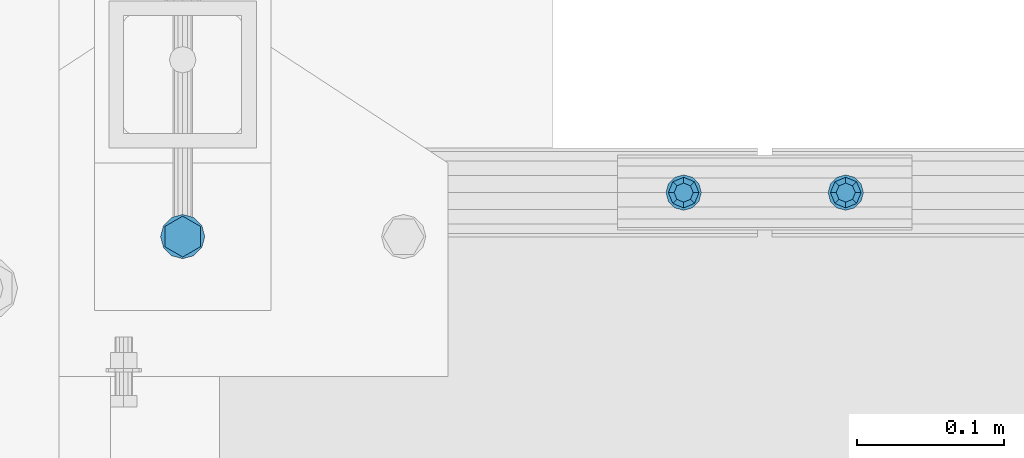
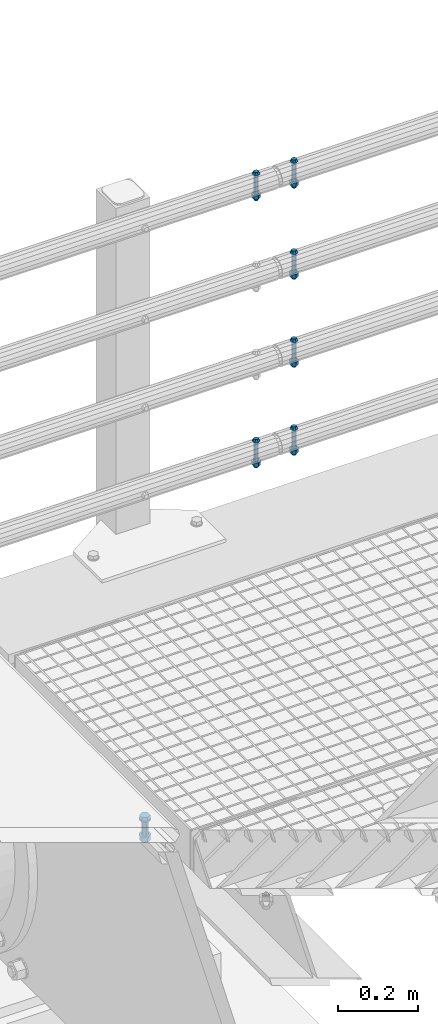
# One storey, part 75 of 1530: 7 mechanical fasteners.
"""IFC2X3 building model written with IfcOpenShell, lengths in millimetres."""

import ifcopenshell
import ifcopenshell.guid

model = None  # the IFC model being written
_history = None  # IfcOwnerHistory: only IFC2X3 demands one
_inside = {}  # id of a spatial element -> (the spatial element, [elements in it])
_under = {}  # id of a project, library or spatial element -> (it, [spatial elements below it])
_declared = {}  # id of a project -> (the project, [libraries it declares])
_typed = {}  # id of a type object -> (the type object, [elements of that type])
_made_of = {}  # id of a material, layer set ... -> (it, [elements and type objects made of it])


def new_model(schema):
    """Start an empty IFC model of exactly this schema.

    Asked for "IFC4X3", IfcOpenShell would pick the latest addendum, in which some entities
    have other attributes; the version numbers below select the first issue.
    IFC2X3 requires an IfcOwnerHistory on every rooted entity: one is made here for all.
    """
    global model, _history
    if schema == "IFC4X3":
        model = ifcopenshell.file(schema_version=(4, 3, 0, 0))
    else:
        model = ifcopenshell.file(schema=schema)
    _inside.clear()
    _under.clear()
    _declared.clear()
    _typed.clear()
    _made_of.clear()
    _history = None
    if model.schema == "IFC2X3":
        org = make("IfcOrganization", Name="unknown")
        user = make(
            "IfcPersonAndOrganization",
            ThePerson=make("IfcPerson", FamilyName="unknown"),
            TheOrganization=org,
        )
        app = make(
            "IfcApplication",
            ApplicationDeveloper=org,
            Version="unknown",
            ApplicationFullName="unknown",
            ApplicationIdentifier="unknown",
        )
        _history = make(
            "IfcOwnerHistory",
            OwningUser=user,
            OwningApplication=app,
            ChangeAction="ADDED",
            CreationDate=0,
        )
    return model


def make(cls, **values):
    """One entity of the class cls with the attributes given. An attribute that is None is left unset."""
    return model.create_entity(
        cls, **{name: value for name, value in values.items() if value is not None}
    )


def rooted(cls, **values):
    """An entity with a GlobalId (a new one), such as an element, a storey or a relation."""
    return make(cls, GlobalId=ifcopenshell.guid.new(), OwnerHistory=_history, **values)


def si_unit(unit_type, name, prefix=None):
    """IfcSIUnit, for example si_unit("LENGTHUNIT", "METRE", prefix="MILLI")."""
    return make("IfcSIUnit", UnitType=unit_type, Prefix=prefix, Name=name)


def assignment(units):
    """IfcUnitAssignment: the units of a project."""
    return None if units is None else make("IfcUnitAssignment", Units=units)


def point(xyz):
    """IfcCartesianPoint."""
    return None if xyz is None else make("IfcCartesianPoint", Coordinates=xyz)


def direction(xyz):
    """IfcDirection."""
    return None if xyz is None else make("IfcDirection", DirectionRatios=xyz)


def frame(location, z_axis=None, x_axis=None):
    """IfcAxis2Placement3D, a coordinate frame: its origin and axes. An axis left out is left unset."""
    return make(
        "IfcAxis2Placement3D",
        Location=point(location),
        Axis=direction(z_axis),
        RefDirection=direction(x_axis),
    )


def origin_with_axes():
    """The frame at (0, 0, 0) with the z axis (0, 0, 1) and the x axis (1, 0, 0) written out."""
    return frame((0.0, 0.0, 0.0), z_axis=(0.0, 0.0, 1.0), x_axis=(1.0, 0.0, 0.0))


def place(relative_to, where):
    """IfcLocalPlacement: puts the frame where relative to a parent placement (None: the world)."""
    return make(
        "IfcLocalPlacement", PlacementRelTo=relative_to, RelativePlacement=where
    )


def context(
    kind, dimensions, precision=None, world=None, true_north=None, identifier=None
):
    """IfcGeometricRepresentationContext, for example the 3D "Model" context."""
    return make(
        "IfcGeometricRepresentationContext",
        ContextIdentifier=identifier,
        ContextType=kind,
        CoordinateSpaceDimension=dimensions,
        Precision=precision,
        WorldCoordinateSystem=world,
        TrueNorth=true_north,
    )


def subcontext(parent, identifier, kind, view, scale=None):
    """IfcGeometricRepresentationSubContext, for example "Body" below "Model"."""
    return make(
        "IfcGeometricRepresentationSubContext",
        ContextIdentifier=identifier,
        ContextType=kind,
        ParentContext=parent,
        TargetScale=scale,
        TargetView=view,
    )


def project(units=None, contexts=None):
    """IfcProject with its units and contexts."""
    return rooted(
        "IfcProject",
        Name="project",
        RepresentationContexts=contexts,
        UnitsInContext=assignment(units),
    )


def spatial(cls, under=None, at=None, **own):
    """A site, building, storey or space (cls), placed at a placement, below another one or the project."""
    s = rooted(cls, ObjectPlacement=at, **own)
    if under is not None:
        _under.setdefault(under.id(), (under, []))[1].append(s)
    return s


def faces_of(points, faces, orient=None, outer=None):
    """IfcFace entities. A face is a list of loops; a loop is a list of indices into points, from 0.

    orient and outer hold one flag for each loop. By default every Orientation is true, the
    first loop of a face is its IfcFaceOuterBound and the others are IfcFaceBound.
    """
    made = []
    for i, loops in enumerate(faces):
        bounds = []
        for j, loop in enumerate(loops):
            is_outer = j == 0 if outer is None else outer[i][j]
            bounds.append(
                make(
                    "IfcFaceOuterBound" if is_outer else "IfcFaceBound",
                    Bound=make("IfcPolyLoop", Polygon=[points[k] for k in loop]),
                    Orientation=True if orient is None else orient[i][j],
                )
            )
        made.append(make("IfcFace", Bounds=bounds))
    return made


def faceted_brep(points, faces, orient=None, outer=None, voids=None):
    """IfcFacetedBrep: a solid bounded by flat faces; with voids (closed shells), ...WithVoids."""
    shared = [point(p) for p in points]
    hull = make("IfcClosedShell", CfsFaces=faces_of(shared, faces, orient, outer))
    if voids is None:
        return make("IfcFacetedBrep", Outer=hull)
    return make(
        "IfcFacetedBrepWithVoids",
        Outer=hull,
        Voids=[
            make(cls, CfsFaces=faces_of(shared, fs, o, b)) for cls, fs, o, b in voids
        ],
    )


def shape(context_of_items, identifier, shape_type, items):
    """IfcShapeRepresentation: the items that make up one representation, for example the "Body"."""
    return make(
        "IfcShapeRepresentation",
        ContextOfItems=context_of_items,
        RepresentationIdentifier=identifier,
        RepresentationType=shape_type,
        Items=items,
    )


def source(mapping_origin, context_of_items, identifier, shape_type, items):
    """IfcRepresentationMap: a shape defined once, which mapped items show again and again."""
    return make(
        "IfcRepresentationMap",
        MappingOrigin=mapping_origin,
        MappedRepresentation=shape(context_of_items, identifier, shape_type, items),
    )


def transform(
    local_origin,
    x_axis=None,
    y_axis=None,
    z_axis=None,
    scale=None,
    scale2=None,
    scale3=None,
    uniform=True,
):
    """IfcCartesianTransformationOperator3D, or its non-uniform kind. x_axis, y_axis, z_axis: its Axis1, 2, 3."""
    if uniform:
        return make(
            "IfcCartesianTransformationOperator3D",
            Axis1=direction(x_axis),
            Axis2=direction(y_axis),
            LocalOrigin=point(local_origin),
            Scale=scale,
            Axis3=direction(z_axis),
        )
    return make(
        "IfcCartesianTransformationOperator3DnonUniform",
        Axis1=direction(x_axis),
        Axis2=direction(y_axis),
        LocalOrigin=point(local_origin),
        Scale=scale,
        Axis3=direction(z_axis),
        Scale2=scale2,
        Scale3=scale3,
    )


def mapped(mapping_source, mapping_target):
    """IfcMappedItem: shows the shape of a source again, moved by a transform."""
    return make(
        "IfcMappedItem", MappingSource=mapping_source, MappingTarget=mapping_target
    )


def material(Name=None, Category=None):
    """IfcMaterial."""
    return make("IfcMaterial", Name=Name, Category=Category)


def made_of(thing, what):
    """Note that an element or type object is made of a material, layer set ...; save() writes the relation."""
    if what is not None:
        _made_of.setdefault(what.id(), (what, []))[1].append(thing)
    return thing


def type_object(cls, material=None, **own):
    """A type object (cls), such as IfcWallType, which elements share."""
    return made_of(rooted(cls, **own), material)


def element(
    cls,
    number,
    at=None,
    inside=None,
    cuts=None,
    type_object=None,
    material=None,
    context=None,
    identifier="Body",
    shape_type=None,
    held_by="IfcProductDefinitionShape",
    body=None,
    shapes=None,
    **own,
):
    """One element of the class cls, such as IfcWall. Its Tag is "e" and its number.

    at: its placement. inside: the storey or other place that contains it. cuts: it is an
    opening in that element (IfcRelVoidsElement). A single representation is given by context,
    identifier, shape_type and body (its items); several are given by shapes. held_by: the class
    of the entity that holds the representations. save() writes the other relations.
    """
    e = rooted(cls, Tag="e%d" % number, ObjectPlacement=at, **own)
    if body is not None:
        shapes = [shape(context, identifier, shape_type, body)]
    if shapes is not None:
        e.Representation = make(held_by, Representations=shapes)
    if inside is not None:
        _inside.setdefault(inside.id(), (inside, []))[1].append(e)
    if cuts is not None:
        rooted(
            "IfcRelVoidsElement", RelatingBuildingElement=cuts, RelatedOpeningElement=e
        )
    if type_object is not None:
        _typed.setdefault(type_object.id(), (type_object, []))[1].append(e)
    return made_of(e, material)


def aggregate(whole, parts):
    """IfcRelAggregates: a whole, such as a stair, and the parts it consists of."""
    return rooted("IfcRelAggregates", RelatingObject=whole, RelatedObjects=parts)


def save(model, path):
    """Write the relations noted so far, then the file.

    IfcRelAggregates (storeys below a building ...), IfcRelContainedInSpatialStructure (elements
    in a storey), IfcRelDefinesByType, IfcRelAssociatesMaterial and IfcRelDeclares: one each for
    every whole, place, type object, material and project.
    """
    for whole, parts in _under.values():
        aggregate(whole, parts)
    for where, things in _inside.values():
        rooted(
            "IfcRelContainedInSpatialStructure",
            RelatedElements=things,
            RelatingStructure=where,
        )
    for kind, things in _typed.values():
        rooted("IfcRelDefinesByType", RelatedObjects=things, RelatingType=kind)
    for what, things in _made_of.values():
        rooted("IfcRelAssociatesMaterial", RelatedObjects=things, RelatingMaterial=what)
    for by, libraries in _declared.values():
        rooted("IfcRelDeclares", RelatingContext=by, RelatedDefinitions=libraries)
    model.write(path)


model = new_model("IFC2X3")

# Units and contexts
model_context = context("Model", 3, precision=1e-05, world=origin_with_axes())
body_context = subcontext(model_context, "Body", "Model", "MODEL_VIEW")
ifc_project = project(units=[si_unit("LENGTHUNIT", "METRE", prefix="MILLI"), si_unit("AREAUNIT", "SQUARE_METRE"), si_unit("VOLUMEUNIT", "CUBIC_METRE"), si_unit("MASSUNIT", "GRAM", prefix="KILO"), si_unit("TIMEUNIT", "SECOND"), si_unit("PLANEANGLEUNIT", "RADIAN"), si_unit("SOLIDANGLEUNIT", "STERADIAN"), si_unit("THERMODYNAMICTEMPERATUREUNIT", "DEGREE_CELSIUS"), si_unit("LUMINOUSINTENSITYUNIT", "LUMEN")], contexts=[model_context])

# Site, building, storey
site_placement = place(None, origin_with_axes())
site = spatial("IfcSite", under=ifc_project, at=site_placement, Name="Brattvåg", CompositionType="ELEMENT")
building_placement = place(site_placement, origin_with_axes())
building = spatial("IfcBuilding", under=site, at=building_placement, Name="Undefined", CompositionType="ELEMENT")
storey_placement = place(building_placement, origin_with_axes())
storey = spatial("IfcBuildingStorey", under=building, at=storey_placement, Name="Undefined", CompositionType="ELEMENT", Elevation=0.0)

# Mechanical fasteners
ifc_material = material(Name="8")
mechanical_fastener_type = type_object("IfcMechanicalFastenerType", Name="Bolt assembly")
shared_shape_1 = source(origin_with_axes(), body_context, "Body", "Brep", [
    faceted_brep([(6.49435320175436, -7.50000000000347, 0.0), (4.59220118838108, -7.50000000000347, 4.59220118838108), (3.97664443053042e-16, -7.50000000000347, 6.49435320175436), (-4.59220118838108, -7.50000000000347, 4.59220118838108), (-6.49435320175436, -7.50000000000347, 7.95328886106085e-16), (-4.59220118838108, -7.50000000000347, -4.59220118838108), (-1.19299332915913e-15, -7.50000000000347, -6.49435320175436), (4.59220118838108, -7.50000000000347, -4.59220118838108), (7.34846922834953, -3.46744855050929e-12, -7.34846922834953), (-1.90903542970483e-15, -3.46744855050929e-12, -10.3923048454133), (-7.34846922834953, -3.46744855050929e-12, -7.34846922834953), (-10.3923048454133, 3.46808519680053e-07, 1.27269028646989e-15), (-7.34846922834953, -3.46744855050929e-12, 7.34846922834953), (6.36345143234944e-16, -3.46744855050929e-12, 10.3923048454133), (7.34846922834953, -3.46744855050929e-12, 7.34846922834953), (10.3923048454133, 3.46808519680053e-07, 0.0), (6.0, 3.46808519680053e-07, 0.0), (5.19615242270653, 3.46808519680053e-07, 3.00000000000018), (2.99999999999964, 3.46808519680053e-07, 5.19615242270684), (-6.21801588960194e-13, 3.46808519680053e-07, 6.0), (-3.00000000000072, 3.46808519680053e-07, 5.19615242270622), (-5.19615242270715, 3.46808519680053e-07, 2.9999999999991), (-6.0, 3.46808519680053e-07, -1.24360317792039e-12), (-5.19615242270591, 3.46808519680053e-07, -3.00000000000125), (-2.99999999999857, 3.46808519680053e-07, -5.19615242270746), (1.85874342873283e-12, 3.46808519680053e-07, -6.0), (3.00000000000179, 3.46808519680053e-07, -5.1961524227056), (5.19615242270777, 3.46808519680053e-07, -2.99999999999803), (5.19615242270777, 79.9999999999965, -2.99999999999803), (3.00000000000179, 79.9999999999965, -5.1961524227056), (1.85874342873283e-12, 79.9999999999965, -6.0), (-2.99999999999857, 79.9999999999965, -5.19615242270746), (-5.19615242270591, 79.9999999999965, -3.00000000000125), (-6.0, 79.9999999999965, -1.24360317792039e-12), (-5.19615242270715, 79.9999999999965, 2.9999999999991), (-3.00000000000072, 79.9999999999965, 5.19615242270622), (-6.21801588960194e-13, 79.9999999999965, 6.0), (2.99999999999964, 79.9999999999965, 5.19615242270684), (5.19615242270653, 79.9999999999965, 3.00000000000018), (6.0, 79.9999999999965, 0.0), (12.0, 60.2988956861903, 0.0), (10.3923048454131, 60.2988956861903, 6.00000000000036), (5.99999999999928, 60.2988956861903, 10.3923048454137), (-1.24360317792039e-12, 60.2988956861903, 12.0), (-6.00000000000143, 60.2988956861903, 10.3923048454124), (-10.3923048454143, 60.2988956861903, 5.99999999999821), (-12.0, 60.2988956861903, -2.48720635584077e-12), (-10.3923048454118, 60.2988956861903, -6.00000000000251), (-5.99999999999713, 60.2988956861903, -10.3923048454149), (3.71748685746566e-12, 60.2988956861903, -12.0), (6.00000000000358, 60.2988956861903, -10.3923048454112), (10.3923048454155, 60.2988956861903, -5.99999999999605), (10.3923048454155, 62.7988956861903, -5.99999999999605), (6.00000000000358, 62.7988956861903, -10.3923048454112), (3.71748685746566e-12, 62.7988956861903, -12.0), (-5.99999999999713, 62.7988956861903, -10.3923048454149), (-10.3923048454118, 62.7988956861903, -6.00000000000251), (-12.0, 62.7988956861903, -2.48720635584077e-12), (-10.3923048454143, 62.7988956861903, 5.99999999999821), (-6.00000000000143, 62.7988956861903, 10.3923048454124), (-1.24360317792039e-12, 62.7988956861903, 12.0), (5.99999999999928, 62.7988956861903, 10.3923048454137), (10.3923048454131, 62.7988956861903, 6.00000000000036), (12.0, 62.7988956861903, 0.0), (10.9696551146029, 62.7988956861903, 0.0), (5.48482755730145, 62.7988956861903, 9.5), (-5.48482755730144, 62.7988956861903, 9.5), (-10.9696551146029, 62.7988956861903, 1.34339530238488e-15), (-5.48482755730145, 62.7988956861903, -9.5), (5.48482755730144, 62.7988956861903, -9.5), (5.48482755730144, 73.5988958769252, -9.5), (-5.48482755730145, 73.5988958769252, -9.5), (-10.9696551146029, 73.5988958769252, 1.34339530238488e-15), (-5.48482755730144, 73.5988958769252, 9.5), (5.48482755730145, 73.5988958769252, 9.5), (10.9696551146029, 73.5988958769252, 0.0)], [[[0, 1, 2, 3, 4, 5, 6, 7]], [[8, 9, 10, 11, 12, 13, 14, 15]], [[0, 15, 14, 1]], [[1, 14, 13, 2]], [[2, 13, 12, 3]], [[3, 12, 11, 4]], [[4, 11, 10, 5]], [[5, 10, 9, 6]], [[6, 9, 8, 7]], [[7, 8, 15, 0]], [[16, 17, 18, 19, 20, 21, 22, 23, 24, 25, 26, 27]], [[28, 29, 30, 31, 32, 33, 34, 35, 36, 37, 38, 39]], [[16, 39, 38, 17]], [[17, 38, 37, 18]], [[18, 37, 36, 19]], [[19, 36, 35, 20]], [[20, 35, 34, 21]], [[21, 34, 33, 22]], [[22, 33, 32, 23]], [[23, 32, 31, 24]], [[24, 31, 30, 25]], [[25, 30, 29, 26]], [[26, 29, 28, 27]], [[27, 28, 39, 16]], [[40, 41, 42, 43, 44, 45, 46, 47, 48, 49, 50, 51]], [[52, 53, 54, 55, 56, 57, 58, 59, 60, 61, 62, 63]], [[40, 63, 62, 41]], [[41, 62, 61, 42]], [[42, 61, 60, 43]], [[43, 60, 59, 44]], [[44, 59, 58, 45]], [[45, 58, 57, 46]], [[46, 57, 56, 47]], [[47, 56, 55, 48]], [[48, 55, 54, 49]], [[49, 54, 53, 50]], [[50, 53, 52, 51]], [[51, 52, 63, 40]], [[64, 65, 66, 67, 68, 69]], [[70, 71, 72, 73, 74, 75]], [[64, 75, 74, 65]], [[65, 74, 73, 66]], [[66, 73, 72, 67]], [[67, 72, 71, 68]], [[68, 71, 70, 69]], [[69, 70, 75, 64]]]),
    faceted_brep([(6.5, 0.100000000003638, 0.0), (5.62916512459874, 0.100000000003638, 3.25000000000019), (3.24999999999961, 0.100000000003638, 5.62916512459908), (-6.7361838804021e-13, 0.100000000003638, 6.5), (-3.25000000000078, 0.100000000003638, 5.6291651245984), (-5.62916512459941, 0.100000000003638, 3.24999999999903), (-6.5, 0.100000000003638, -1.34723677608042e-12), (-5.62916512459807, 0.100000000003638, -3.25000000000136), (-3.24999999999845, 0.100000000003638, -5.62916512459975), (2.01363871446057e-12, 0.100000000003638, -6.5), (3.25000000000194, 0.100000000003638, -5.62916512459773), (5.62916512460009, 0.100000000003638, -3.24999999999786), (5.62916512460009, 60.3988956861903, -3.24999999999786), (3.25000000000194, 60.3988956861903, -5.62916512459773), (2.01363871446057e-12, 60.3988956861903, -6.5), (-3.24999999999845, 60.3988956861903, -5.62916512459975), (-5.62916512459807, 60.3988956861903, -3.25000000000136), (-6.5, 60.3988956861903, -1.34723677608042e-12), (-5.62916512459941, 60.3988956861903, 3.24999999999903), (-3.25000000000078, 60.3988956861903, 5.6291651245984), (-6.7361838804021e-13, 60.3988956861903, 6.5), (3.24999999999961, 60.3988956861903, 5.62916512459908), (5.62916512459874, 60.3988956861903, 3.25000000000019), (6.5, 60.3988956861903, 0.0), (6.5, 4.25026510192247, 0.0), (5.62916512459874, 4.25026510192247, 3.25000000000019), (3.24999999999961, 4.25026510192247, 5.62916512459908), (-6.7361838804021e-13, 4.25026510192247, 6.5), (-3.25000000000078, 4.25026510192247, 5.6291651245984), (-5.62916512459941, 4.25026510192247, 3.24999999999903), (-6.5, 4.25026510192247, -1.34723677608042e-12), (-5.62916512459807, 4.25026510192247, -3.25000000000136), (-3.24999999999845, 4.25026510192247, -5.62916512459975), (2.01363871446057e-12, 4.25026510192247, -6.5), (3.25000000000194, 4.25026510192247, -5.62916512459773), (5.62916512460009, 4.25026510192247, -3.24999999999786), (5.62916512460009, 55.3491717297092, -3.24999999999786), (3.25000000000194, 55.3491717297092, -5.62916512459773), (2.01363871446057e-12, 55.3491717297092, -6.5), (-3.24999999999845, 55.3491717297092, -5.62916512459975), (-5.62916512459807, 55.3491717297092, -3.25000000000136), (-6.5, 55.3491717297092, -1.34723677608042e-12), (-5.62916512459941, 55.3491717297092, 3.24999999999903), (-3.25000000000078, 55.3491717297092, 5.6291651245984), (-6.7361838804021e-13, 55.3491717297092, 6.5), (3.24999999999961, 55.3491717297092, 5.62916512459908), (5.62916512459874, 55.3491717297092, 3.25000000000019), (6.5, 55.3491717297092, 0.0)], [[[0, 1, 2, 3, 4, 5, 6, 7, 8, 9, 10, 11]], [[12, 13, 14, 15, 16, 17, 18, 19, 20, 21, 22, 23]], [[0, 23, 22, 1]], [[1, 22, 21, 2]], [[2, 21, 20, 3]], [[3, 20, 19, 4]], [[4, 19, 18, 5]], [[5, 18, 17, 6]], [[6, 17, 16, 7]], [[7, 16, 15, 8]], [[8, 15, 14, 9]], [[9, 14, 13, 10]], [[10, 13, 12, 11]], [[11, 12, 23, 0]], [[24, 25, 26, 27, 28, 29, 30, 31, 32, 33, 34, 35]], [[36, 37, 38, 39, 40, 41, 42, 43, 44, 45, 46, 47]], [[24, 47, 46, 25]], [[25, 46, 45, 26]], [[26, 45, 44, 27]], [[27, 44, 43, 28]], [[28, 43, 42, 29]], [[29, 42, 41, 30]], [[30, 41, 40, 31]], [[31, 40, 39, 32]], [[32, 39, 38, 33]], [[33, 38, 37, 34]], [[34, 37, 36, 35]], [[35, 36, 47, 24]]]),
])
for number, where, z_axis, x_axis, name in (
    (1, (999.999862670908, 9129.84988021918, 179.7000579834), (1.0, 0.0, 0.0), (0.0, -0.999999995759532, -9.20919999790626e-05), "Bolt assembly"),
    (2, (999.999862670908, 9129.84988021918, 449.7000579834), (1.0, 0.0, 0.0), (0.0, -0.999999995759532, -9.20919999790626e-05), "Bolt assembly"),
    (3, (999.999862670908, 9129.84988021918, 719.7000579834), (1.0, 0.0, 0.0), (0.0, -0.999999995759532, -9.20919999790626e-05), "Bolt assembly"),
    (4, (999.999862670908, 9129.84988021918, 999.7000579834), (1.0, 0.0, 0.0), (0.0, -0.999999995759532, -9.20919999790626e-05), "Bolt assembly"),
):
    element("IfcMechanicalFastener", number, at=place(storey_placement, frame(where, z_axis=z_axis, x_axis=x_axis)), inside=storey, type_object=mechanical_fastener_type, material=ifc_material, Name=name, NominalDiameter=12.0, NominalLength=80.0, context=body_context, shape_type="MappedRepresentation", body=[
        mapped(shared_shape_1, transform((0.0, 0.0, 0.0))),
    ])
shared_shape_2 = source(origin_with_axes(), body_context, "Body", "Brep", [
    faceted_brep([(6.49435320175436, -7.49993057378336, 0.0), (4.59220118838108, -7.49993057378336, 4.59220118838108), (3.97664443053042e-16, -7.49993057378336, 6.49435320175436), (-4.59220118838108, -7.49993057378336, 4.59220118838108), (-6.49435320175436, -7.49993057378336, 7.95328886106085e-16), (-4.59220118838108, -7.49993057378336, -4.59220118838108), (-1.19299332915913e-15, -7.49993057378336, -6.49435320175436), (4.59220118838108, -7.49993057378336, -4.59220118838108), (7.34846922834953, 6.94262166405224e-05, -7.34846922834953), (-1.90903542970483e-15, 6.94262166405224e-05, -10.3923048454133), (-7.34846922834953, 6.94262166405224e-05, -7.34846922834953), (-10.3923048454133, 6.94262166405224e-05, 1.27269028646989e-15), (-7.34846922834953, 6.94262166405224e-05, 7.34846922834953), (6.36345143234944e-16, 6.94262166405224e-05, 10.3923048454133), (7.34846922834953, 6.94262166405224e-05, 7.34846922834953), (10.3923048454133, 6.94262166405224e-05, 0.0), (6.0, 6.94262166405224e-05, 0.0), (5.19615242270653, 6.94262166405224e-05, 3.00000000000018), (2.99999999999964, 6.94262166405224e-05, 5.19615242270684), (-6.21801588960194e-13, 6.94262166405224e-05, 6.0), (-3.00000000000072, 6.94262166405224e-05, 5.19615242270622), (-5.19615242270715, 6.94262166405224e-05, 2.9999999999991), (-6.0, 6.94262166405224e-05, -1.24360317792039e-12), (-5.19615242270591, 6.94262166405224e-05, -3.00000000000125), (-2.99999999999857, 6.94262166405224e-05, -5.19615242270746), (1.85874342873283e-12, 6.94262166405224e-05, -6.0), (3.00000000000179, 6.94262166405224e-05, -5.1961524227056), (5.19615242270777, 6.94262166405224e-05, -2.99999999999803), (5.19615242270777, 80.0000694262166, -2.99999999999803), (3.00000000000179, 80.0000694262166, -5.1961524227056), (1.85874342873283e-12, 80.0000694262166, -6.0), (-2.99999999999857, 80.0000694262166, -5.19615242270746), (-5.19615242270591, 80.0000694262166, -3.00000000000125), (-6.0, 80.0000694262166, -1.24360317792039e-12), (-5.19615242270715, 80.0000694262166, 2.9999999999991), (-3.00000000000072, 80.0000694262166, 5.19615242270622), (-6.21801588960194e-13, 80.0000694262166, 6.0), (2.99999999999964, 80.0000694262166, 5.19615242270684), (5.19615242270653, 80.0000694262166, 3.00000000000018), (6.0, 80.0000694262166, 0.0), (12.0, 60.2989651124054, 0.0), (10.3923048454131, 60.2989651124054, 6.00000000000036), (5.99999999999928, 60.2989651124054, 10.3923048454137), (-1.24360317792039e-12, 60.2989651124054, 12.0), (-6.00000000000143, 60.2989651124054, 10.3923048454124), (-10.3923048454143, 60.2989651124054, 5.99999999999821), (-12.0, 60.2989651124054, -2.48720635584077e-12), (-10.3923048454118, 60.2989651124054, -6.00000000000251), (-5.99999999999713, 60.2989651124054, -10.3923048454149), (3.71748685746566e-12, 60.2989651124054, -12.0), (6.00000000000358, 60.2989651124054, -10.3923048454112), (10.3923048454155, 60.2989651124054, -5.99999999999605), (10.3923048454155, 62.7989651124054, -5.99999999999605), (6.00000000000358, 62.7989651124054, -10.3923048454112), (3.71748685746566e-12, 62.7989651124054, -12.0), (-5.99999999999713, 62.7989651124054, -10.3923048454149), (-10.3923048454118, 62.7989651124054, -6.00000000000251), (-12.0, 62.7989651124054, -2.48720635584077e-12), (-10.3923048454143, 62.7989651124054, 5.99999999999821), (-6.00000000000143, 62.7989651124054, 10.3923048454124), (-1.24360317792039e-12, 62.7989651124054, 12.0), (5.99999999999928, 62.7989651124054, 10.3923048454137), (10.3923048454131, 62.7989651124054, 6.00000000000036), (12.0, 62.7989651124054, 0.0), (10.9696551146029, 62.7989651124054, 0.0), (5.48482755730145, 62.7989651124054, 9.5), (-5.48482755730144, 62.7989651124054, 9.5), (-10.9696551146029, 62.7989651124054, 1.34339530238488e-15), (-5.48482755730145, 62.7989651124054, -9.5), (5.48482755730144, 62.7989651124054, -9.5), (5.48482755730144, 73.5989653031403, -9.5), (-5.48482755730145, 73.5989653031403, -9.5), (-10.9696551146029, 73.5989653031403, 1.34339530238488e-15), (-5.48482755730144, 73.5989653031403, 9.5), (5.48482755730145, 73.5989653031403, 9.5), (10.9696551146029, 73.5989653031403, 0.0)], [[[0, 1, 2, 3, 4, 5, 6, 7]], [[8, 9, 10, 11, 12, 13, 14, 15]], [[0, 15, 14, 1]], [[1, 14, 13, 2]], [[2, 13, 12, 3]], [[3, 12, 11, 4]], [[4, 11, 10, 5]], [[5, 10, 9, 6]], [[6, 9, 8, 7]], [[7, 8, 15, 0]], [[16, 17, 18, 19, 20, 21, 22, 23, 24, 25, 26, 27]], [[28, 29, 30, 31, 32, 33, 34, 35, 36, 37, 38, 39]], [[16, 39, 38, 17]], [[17, 38, 37, 18]], [[18, 37, 36, 19]], [[19, 36, 35, 20]], [[20, 35, 34, 21]], [[21, 34, 33, 22]], [[22, 33, 32, 23]], [[23, 32, 31, 24]], [[24, 31, 30, 25]], [[25, 30, 29, 26]], [[26, 29, 28, 27]], [[27, 28, 39, 16]], [[40, 41, 42, 43, 44, 45, 46, 47, 48, 49, 50, 51]], [[52, 53, 54, 55, 56, 57, 58, 59, 60, 61, 62, 63]], [[40, 63, 62, 41]], [[41, 62, 61, 42]], [[42, 61, 60, 43]], [[43, 60, 59, 44]], [[44, 59, 58, 45]], [[45, 58, 57, 46]], [[46, 57, 56, 47]], [[47, 56, 55, 48]], [[48, 55, 54, 49]], [[49, 54, 53, 50]], [[50, 53, 52, 51]], [[51, 52, 63, 40]], [[64, 65, 66, 67, 68, 69]], [[70, 71, 72, 73, 74, 75]], [[64, 75, 74, 65]], [[65, 74, 73, 66]], [[66, 73, 72, 67]], [[67, 72, 71, 68]], [[68, 71, 70, 69]], [[69, 70, 75, 64]]]),
    faceted_brep([(6.5, 0.100069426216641, 0.0), (5.62916512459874, 0.100069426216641, 3.25000000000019), (3.24999999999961, 0.100069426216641, 5.62916512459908), (-6.7361838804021e-13, 0.100069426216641, 6.5), (-3.25000000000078, 0.100069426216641, 5.6291651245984), (-5.62916512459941, 0.100069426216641, 3.24999999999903), (-6.5, 0.100069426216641, -1.34723677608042e-12), (-5.62916512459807, 0.100069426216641, -3.25000000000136), (-3.24999999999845, 0.100069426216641, -5.62916512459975), (2.01363871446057e-12, 0.100069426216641, -6.5), (3.25000000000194, 0.100069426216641, -5.62916512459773), (5.62916512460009, 0.100069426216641, -3.24999999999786), (5.62916512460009, 60.3989651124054, -3.24999999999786), (3.25000000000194, 60.3989651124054, -5.62916512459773), (2.01363871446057e-12, 60.3989651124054, -6.5), (-3.24999999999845, 60.3989651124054, -5.62916512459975), (-5.62916512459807, 60.3989651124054, -3.25000000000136), (-6.5, 60.3989651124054, -1.34723677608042e-12), (-5.62916512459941, 60.3989651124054, 3.24999999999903), (-3.25000000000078, 60.3989651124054, 5.6291651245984), (-6.7361838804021e-13, 60.3989651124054, 6.5), (3.24999999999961, 60.3989651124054, 5.62916512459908), (5.62916512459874, 60.3989651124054, 3.25000000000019), (6.5, 60.3989651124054, 0.0), (6.5, 4.25026510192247, 0.0), (5.62916512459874, 4.25026510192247, 3.25000000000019), (3.24999999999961, 4.25026510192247, 5.62916512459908), (-6.7361838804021e-13, 4.25026510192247, 6.5), (-3.25000000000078, 4.25026510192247, 5.6291651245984), (-5.62916512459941, 4.25026510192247, 3.24999999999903), (-6.5, 4.25026510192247, -1.34723677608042e-12), (-5.62916512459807, 4.25026510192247, -3.25000000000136), (-3.24999999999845, 4.25026510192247, -5.62916512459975), (2.01363871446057e-12, 4.25026510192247, -6.5), (3.25000000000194, 4.25026510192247, -5.62916512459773), (5.62916512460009, 4.25026510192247, -3.24999999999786), (5.62916512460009, 55.3491717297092, -3.24999999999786), (3.25000000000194, 55.3491717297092, -5.62916512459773), (2.01363871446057e-12, 55.3491717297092, -6.5), (-3.24999999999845, 55.3491717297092, -5.62916512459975), (-5.62916512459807, 55.3491717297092, -3.25000000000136), (-6.5, 55.3491717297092, -1.34723677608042e-12), (-5.62916512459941, 55.3491717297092, 3.24999999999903), (-3.25000000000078, 55.3491717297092, 5.6291651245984), (-6.7361838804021e-13, 55.3491717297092, 6.5), (3.24999999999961, 55.3491717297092, 5.62916512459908), (5.62916512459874, 55.3491717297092, 3.25000000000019), (6.5, 55.3491717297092, 0.0)], [[[0, 1, 2, 3, 4, 5, 6, 7, 8, 9, 10, 11]], [[12, 13, 14, 15, 16, 17, 18, 19, 20, 21, 22, 23]], [[0, 23, 22, 1]], [[1, 22, 21, 2]], [[2, 21, 20, 3]], [[3, 20, 19, 4]], [[4, 19, 18, 5]], [[5, 18, 17, 6]], [[6, 17, 16, 7]], [[7, 16, 15, 8]], [[8, 15, 14, 9]], [[9, 14, 13, 10]], [[10, 13, 12, 11]], [[11, 12, 23, 0]], [[24, 25, 26, 27, 28, 29, 30, 31, 32, 33, 34, 35]], [[36, 37, 38, 39, 40, 41, 42, 43, 44, 45, 46, 47]], [[24, 47, 46, 25]], [[25, 46, 45, 26]], [[26, 45, 44, 27]], [[27, 44, 43, 28]], [[28, 43, 42, 29]], [[29, 42, 41, 30]], [[30, 41, 40, 31]], [[31, 40, 39, 32]], [[32, 39, 38, 33]], [[33, 38, 37, 34]], [[34, 37, 36, 35]], [[35, 36, 47, 24]]]),
])
for number, where, z_axis, x_axis, name in (
    (5, (890.000137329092, 9129.84988021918, 179.7000579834), (1.0, 0.0, 0.0), (0.0, -0.999999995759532, -9.20919999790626e-05), "Bolt assembly"),
    (6, (890.000137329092, 9129.84988021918, 999.7000579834), (1.0, 0.0, 0.0), (0.0, -0.999999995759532, -9.20919999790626e-05), "Bolt assembly"),
):
    element("IfcMechanicalFastener", number, at=place(storey_placement, frame(where, z_axis=z_axis, x_axis=x_axis)), inside=storey, type_object=mechanical_fastener_type, material=ifc_material, Name=name, NominalDiameter=12.0, NominalLength=80.0, context=body_context, shape_type="MappedRepresentation", body=[
        mapped(shared_shape_2, transform((0.0, 0.0, 0.0))),
    ])
shared_shape_3 = source(origin_with_axes(), body_context, "Body", "Brep", [
    faceted_brep([(13.856406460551, -12.9998916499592, 0.0), (6.92820323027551, -12.9998916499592, 12.0), (-6.92820323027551, -12.9998916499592, 12.0), (-13.856406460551, -12.9998916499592, 1.69692038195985e-15), (-6.92820323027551, -12.9998916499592, -12.0), (6.9282032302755, -12.9998916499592, -12.0), (6.9282032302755, -2.99989164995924, -12.0), (-6.92820323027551, -2.99989164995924, -12.0), (-13.856406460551, -2.99989164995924, 1.69692038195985e-15), (-6.92820323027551, -2.99989164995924, 12.0), (6.92820323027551, -2.99989164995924, 12.0), (13.856406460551, -2.99989164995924, 0.0), (8.0, -2.99989164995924, 0.0), (6.92820323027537, -2.99989164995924, 4.00000000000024), (3.99999999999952, -2.99989164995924, 6.92820323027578), (-8.29068785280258e-13, -2.99989164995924, 8.0), (-4.00000000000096, -2.99989164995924, 6.92820323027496), (-6.9282032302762, -2.99989164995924, 3.99999999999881), (-8.0, -2.99989164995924, -1.65813757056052e-12), (-6.92820323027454, -2.99989164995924, -4.00000000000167), (-3.99999999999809, -2.99989164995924, -6.92820323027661), (2.47832457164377e-12, -2.99989164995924, -8.0), (4.00000000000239, -2.99989164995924, -6.92820323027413), (6.92820323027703, -2.99989164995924, -3.99999999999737), (6.92820323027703, 67.0001083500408, -3.99999999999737), (4.00000000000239, 67.0001083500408, -6.92820323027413), (2.47832457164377e-12, 67.0001083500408, -8.0), (-3.99999999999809, 67.0001083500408, -6.92820323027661), (-6.92820323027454, 67.0001083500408, -4.00000000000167), (-8.0, 67.0001083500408, -1.65813757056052e-12), (-6.9282032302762, 67.0001083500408, 3.99999999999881), (-4.00000000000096, 67.0001083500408, 6.92820323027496), (-8.29068785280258e-13, 67.0001083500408, 8.0), (3.99999999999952, 67.0001083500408, 6.92820323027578), (6.92820323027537, 67.0001083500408, 4.00000000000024), (8.0, 67.0001083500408, 0.0), (15.0, -2.99989164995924, 0.0), (12.9903810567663, -2.99989164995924, 7.50000000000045), (7.4999999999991, -2.99989164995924, 12.9903810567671), (-1.55450397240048e-12, -2.99989164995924, 15.0), (-7.50000000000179, -2.99989164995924, 12.9903810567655), (-12.9903810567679, -2.99989164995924, 7.49999999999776), (-15.0, -2.99989164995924, -3.10900794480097e-12), (-12.9903810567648, -2.99989164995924, -7.50000000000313), (-7.49999999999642, -2.99989164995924, -12.9903810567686), (4.64685857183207e-12, -2.99989164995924, -15.0), (7.50000000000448, -2.99989164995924, -12.990381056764), (12.9903810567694, -2.99989164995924, -7.49999999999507), (12.9903810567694, 0.000108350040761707, -7.49999999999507), (7.50000000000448, 0.000108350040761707, -12.990381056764), (4.64685857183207e-12, 0.000108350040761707, -15.0), (-7.49999999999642, 0.000108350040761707, -12.9903810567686), (-12.9903810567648, 0.000108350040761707, -7.50000000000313), (-15.0, 0.000108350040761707, -3.10900794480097e-12), (-12.9903810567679, 0.000108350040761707, 7.49999999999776), (-7.50000000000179, 0.000108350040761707, 12.9903810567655), (-1.55450397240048e-12, 0.000108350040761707, 15.0), (7.4999999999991, 0.000108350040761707, 12.9903810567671), (12.9903810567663, 0.000108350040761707, 7.50000000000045), (15.0, 0.000108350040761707, 0.0), (15.0, 45.0001982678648, 0.0), (12.9903810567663, 45.0001982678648, 7.50000000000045), (7.4999999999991, 45.0001982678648, 12.9903810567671), (-1.55450397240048e-12, 45.0001982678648, 15.0), (-7.50000000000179, 45.0001982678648, 12.9903810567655), (-12.9903810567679, 45.0001982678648, 7.49999999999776), (-15.0, 45.0001982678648, -3.10900794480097e-12), (-12.9903810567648, 45.0001982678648, -7.50000000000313), (-7.49999999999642, 45.0001982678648, -12.9903810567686), (4.64685857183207e-12, 45.0001982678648, -15.0), (7.50000000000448, 45.0001982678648, -12.990381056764), (12.9903810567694, 45.0001982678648, -7.49999999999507), (12.9903810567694, 48.0001982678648, -7.49999999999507), (7.50000000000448, 48.0001982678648, -12.990381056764), (4.64685857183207e-12, 48.0001982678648, -15.0), (-7.49999999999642, 48.0001982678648, -12.9903810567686), (-12.9903810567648, 48.0001982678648, -7.50000000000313), (-15.0, 48.0001982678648, -3.10900794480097e-12), (-12.9903810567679, 48.0001982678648, 7.49999999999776), (-7.50000000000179, 48.0001982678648, 12.9903810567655), (-1.55450397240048e-12, 48.0001982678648, 15.0), (7.4999999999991, 48.0001982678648, 12.9903810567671), (12.9903810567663, 48.0001982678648, 7.50000000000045), (15.0, 48.0001982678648, 0.0), (13.856406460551, 48.0001982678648, 0.0), (6.92820323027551, 48.0001982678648, 12.0), (-6.92820323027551, 48.0001982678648, 12.0), (-13.856406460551, 48.0001982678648, 1.69692038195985e-15), (-6.92820323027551, 48.0001982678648, -12.0), (6.9282032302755, 48.0001982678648, -12.0), (6.9282032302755, 62.8001984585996, -12.0), (-6.92820323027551, 62.8001984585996, -12.0), (-13.856406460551, 62.8001984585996, 1.69692038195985e-15), (-6.92820323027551, 62.8001984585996, 12.0), (6.92820323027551, 62.8001984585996, 12.0), (13.856406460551, 62.8001984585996, 0.0)], [[[0, 1, 2, 3, 4, 5]], [[6, 7, 8, 9, 10, 11]], [[0, 11, 10, 1]], [[1, 10, 9, 2]], [[2, 9, 8, 3]], [[3, 8, 7, 4]], [[4, 7, 6, 5]], [[5, 6, 11, 0]], [[12, 13, 14, 15, 16, 17, 18, 19, 20, 21, 22, 23]], [[24, 25, 26, 27, 28, 29, 30, 31, 32, 33, 34, 35]], [[12, 35, 34, 13]], [[13, 34, 33, 14]], [[14, 33, 32, 15]], [[15, 32, 31, 16]], [[16, 31, 30, 17]], [[17, 30, 29, 18]], [[18, 29, 28, 19]], [[19, 28, 27, 20]], [[20, 27, 26, 21]], [[21, 26, 25, 22]], [[22, 25, 24, 23]], [[23, 24, 35, 12]], [[36, 37, 38, 39, 40, 41, 42, 43, 44, 45, 46, 47]], [[48, 49, 50, 51, 52, 53, 54, 55, 56, 57, 58, 59]], [[36, 59, 58, 37]], [[37, 58, 57, 38]], [[38, 57, 56, 39]], [[39, 56, 55, 40]], [[40, 55, 54, 41]], [[41, 54, 53, 42]], [[42, 53, 52, 43]], [[43, 52, 51, 44]], [[44, 51, 50, 45]], [[45, 50, 49, 46]], [[46, 49, 48, 47]], [[47, 48, 59, 36]], [[60, 61, 62, 63, 64, 65, 66, 67, 68, 69, 70, 71]], [[72, 73, 74, 75, 76, 77, 78, 79, 80, 81, 82, 83]], [[60, 83, 82, 61]], [[61, 82, 81, 62]], [[62, 81, 80, 63]], [[63, 80, 79, 64]], [[64, 79, 78, 65]], [[65, 78, 77, 66]], [[66, 77, 76, 67]], [[67, 76, 75, 68]], [[68, 75, 74, 69]], [[69, 74, 73, 70]], [[70, 73, 72, 71]], [[71, 72, 83, 60]], [[84, 85, 86, 87, 88, 89]], [[90, 91, 92, 93, 94, 95]], [[84, 95, 94, 85]], [[85, 94, 93, 86]], [[86, 93, 92, 87]], [[87, 92, 91, 88]], [[88, 91, 90, 89]], [[89, 90, 95, 84]]]),
    faceted_brep([(9.0, 0.100108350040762, 0.0), (7.79422863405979, 0.100108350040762, 4.50000000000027), (4.49999999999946, 0.100108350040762, 7.79422863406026), (-9.3270238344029e-13, 0.100108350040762, 9.0), (-4.50000000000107, 0.100108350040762, 7.79422863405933), (-7.79422863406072, 0.100108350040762, 4.49999999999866), (-9.0, 0.100108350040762, -1.86540476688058e-12), (-7.79422863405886, 0.100108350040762, -4.50000000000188), (-4.49999999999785, 0.100108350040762, -7.79422863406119), (2.78811514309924e-12, 0.100108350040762, -9.0), (4.50000000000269, 0.100108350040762, -7.7942286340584), (7.79422863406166, 0.100108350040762, -4.49999999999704), (7.79422863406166, 10.10010835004, -4.49999999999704), (4.50000000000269, 10.10010835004, -7.7942286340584), (2.78811514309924e-12, 10.10010835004, -9.0), (-4.49999999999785, 10.10010835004, -7.79422863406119), (-7.79422863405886, 10.10010835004, -4.50000000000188), (-9.0, 10.10010835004, -1.86540476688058e-12), (-7.79422863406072, 10.10010835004, 4.49999999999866), (-4.50000000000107, 10.10010835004, 7.79422863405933), (-9.3270238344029e-13, 10.10010835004, 9.0), (4.49999999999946, 10.10010835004, 7.79422863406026), (7.79422863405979, 10.10010835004, 4.50000000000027), (9.0, 10.10010835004, 0.0), (9.0, 10.0002383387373, 0.0), (7.79422863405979, 10.0002383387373, 4.50000000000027), (4.49999999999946, 10.0002383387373, 7.79422863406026), (-9.3270238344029e-13, 10.0002383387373, 9.0), (-4.50000000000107, 10.0002383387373, 7.79422863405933), (-7.79422863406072, 10.0002383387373, 4.49999999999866), (-9.0, 10.0002383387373, -1.86540476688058e-12), (-7.79422863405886, 10.0002383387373, -4.50000000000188), (-4.49999999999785, 10.0002383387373, -7.79422863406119), (2.78811514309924e-12, 10.0002383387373, -9.0), (4.50000000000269, 10.0002383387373, -7.7942286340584), (7.79422863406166, 10.0002383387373, -4.49999999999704), (7.79422863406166, 15.000238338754, -4.49999999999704), (4.50000000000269, 15.000238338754, -7.7942286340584), (2.78811514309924e-12, 15.000238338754, -9.0), (-4.49999999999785, 15.000238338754, -7.79422863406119), (-7.79422863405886, 15.000238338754, -4.50000000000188), (-9.0, 15.000238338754, -1.86540476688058e-12), (-7.79422863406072, 15.000238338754, 4.49999999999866), (-4.50000000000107, 15.000238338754, 7.79422863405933), (-9.3270238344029e-13, 15.000238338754, 9.0), (4.49999999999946, 15.000238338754, 7.79422863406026), (7.79422863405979, 15.000238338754, 4.50000000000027), (9.0, 15.000238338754, 0.0), (9.0, 14.9001982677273, 0.0), (7.79422863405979, 14.9001982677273, 4.50000000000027), (4.49999999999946, 14.9001982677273, 7.79422863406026), (-9.3270238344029e-13, 14.9001982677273, 9.0), (-4.50000000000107, 14.9001982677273, 7.79422863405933), (-7.79422863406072, 14.9001982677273, 4.49999999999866), (-9.0, 14.9001982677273, -1.86540476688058e-12), (-7.79422863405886, 14.9001982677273, -4.50000000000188), (-4.49999999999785, 14.9001982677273, -7.79422863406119), (2.78811514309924e-12, 14.9001982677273, -9.0), (4.50000000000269, 14.9001982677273, -7.7942286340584), (7.79422863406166, 14.9001982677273, -4.49999999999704), (7.79422863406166, 45.0001982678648, -4.49999999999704), (4.50000000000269, 45.0001982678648, -7.7942286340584), (2.78811514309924e-12, 45.0001982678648, -9.0), (-4.49999999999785, 45.0001982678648, -7.79422863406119), (-7.79422863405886, 45.0001982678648, -4.50000000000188), (-9.0, 45.0001982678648, -1.86540476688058e-12), (-7.79422863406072, 45.0001982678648, 4.49999999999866), (-4.50000000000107, 45.0001982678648, 7.79422863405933), (-9.3270238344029e-13, 45.0001982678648, 9.0), (4.49999999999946, 45.0001982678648, 7.79422863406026), (7.79422863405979, 45.0001982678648, 4.50000000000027), (9.0, 45.0001982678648, 0.0)], [[[0, 1, 2, 3, 4, 5, 6, 7, 8, 9, 10, 11]], [[12, 13, 14, 15, 16, 17, 18, 19, 20, 21, 22, 23]], [[0, 23, 22, 1]], [[1, 22, 21, 2]], [[2, 21, 20, 3]], [[3, 20, 19, 4]], [[4, 19, 18, 5]], [[5, 18, 17, 6]], [[6, 17, 16, 7]], [[7, 16, 15, 8]], [[8, 15, 14, 9]], [[9, 14, 13, 10]], [[10, 13, 12, 11]], [[11, 12, 23, 0]], [[24, 25, 26, 27, 28, 29, 30, 31, 32, 33, 34, 35]], [[36, 37, 38, 39, 40, 41, 42, 43, 44, 45, 46, 47]], [[24, 47, 46, 25]], [[25, 46, 45, 26]], [[26, 45, 44, 27]], [[27, 44, 43, 28]], [[28, 43, 42, 29]], [[29, 42, 41, 30]], [[30, 41, 40, 31]], [[31, 40, 39, 32]], [[32, 39, 38, 33]], [[33, 38, 37, 34]], [[34, 37, 36, 35]], [[35, 36, 47, 24]], [[48, 49, 50, 51, 52, 53, 54, 55, 56, 57, 58, 59]], [[60, 61, 62, 63, 64, 65, 66, 67, 68, 69, 70, 71]], [[48, 71, 70, 49]], [[49, 70, 69, 50]], [[50, 69, 68, 51]], [[51, 68, 67, 52]], [[52, 67, 66, 53]], [[53, 66, 65, 54]], [[54, 65, 64, 55]], [[55, 64, 63, 56]], [[56, 63, 62, 57]], [[57, 62, 61, 58]], [[58, 61, 60, 59]], [[59, 60, 71, 48]]]),
])
mechanical_fastener_placement = place(storey_placement, frame((550.000160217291, 9099.99968338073, -844.999801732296), z_axis=(-1.0, 1.99999855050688e-09, 0.0), x_axis=(0.0, 0.999999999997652, -2.16700000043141e-06)))
element("IfcMechanicalFastener", 7, at=mechanical_fastener_placement, inside=storey, type_object=mechanical_fastener_type, material=ifc_material, Name="Bolt assembly", NominalDiameter=16.0, NominalLength=70.0, context=body_context, shape_type="MappedRepresentation", body=[
    mapped(shared_shape_3, transform((0.0, 0.0, 0.0))),
])

save(model, "model.ifc")
